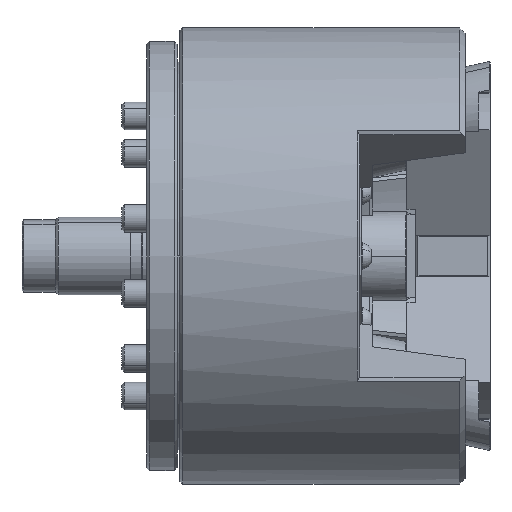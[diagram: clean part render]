
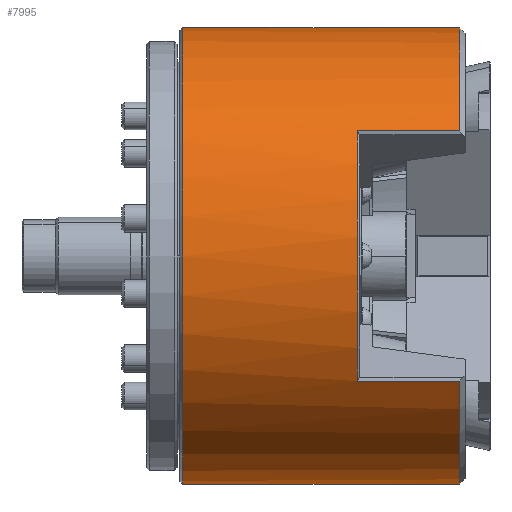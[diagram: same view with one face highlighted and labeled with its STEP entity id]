
A CAD part, front view. The second image highlights one B-rep face of the part: STEP entity #7995.
In plain terms, the highlighted cylindrical face has radius 82.5 mm (diameter 165 mm), a partial arc.
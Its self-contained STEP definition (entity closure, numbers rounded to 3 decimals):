
#733 = VERTEX_POINT ( 'NONE', #26106 ) ;
#983 = EDGE_CURVE ( 'NONE', #24316, #18321, #19117, .T. ) ;
#1066 = EDGE_CURVE ( 'NONE', #26856, #13621, #30392, .T. ) ;
#1553 = VECTOR ( 'NONE', #20618, 1000. ) ;
#2226 = DIRECTION ( 'NONE',  ( 1., 0., 0. ) ) ;
#2400 = LINE ( 'NONE', #15055, #1553 ) ;
#3865 = ORIENTED_EDGE ( 'NONE', *, *, #4741, .F. ) ;
#4342 = ORIENTED_EDGE ( 'NONE', *, *, #15657, .T. ) ;
#4457 = VECTOR ( 'NONE', #10554, 1000. ) ;
#4741 = EDGE_CURVE ( 'NONE', #23458, #35061, #11583, .T. ) ;
#4797 = CARTESIAN_POINT ( 'NONE',  ( -0.482, 0., 82.5 ) ) ;
#5272 = CARTESIAN_POINT ( 'NONE',  ( 36.5, -4.591, -82.372 ) ) ;
#5558 = CARTESIAN_POINT ( 'NONE',  ( 63.843, 0., 82.5 ) ) ;
#6018 = FACE_OUTER_BOUND ( 'NONE', #27907, .T. ) ;
#6233 = EDGE_CURVE ( 'NONE', #27348, #26856, #33891, .T. ) ;
#6796 = EDGE_CURVE ( 'NONE', #18579, #18954, #33046, .T. ) ;
#7161 = EDGE_CURVE ( 'NONE', #8648, #13621, #24920, .T. ) ;
#7324 = VERTEX_POINT ( 'NONE', #27896 ) ;
#7340 = CARTESIAN_POINT ( 'NONE',  ( -0.482, -69.041, -45.162 ) ) ;
#7462 = DIRECTION ( 'NONE',  ( -1., 0., 0. ) ) ;
#7531 = CARTESIAN_POINT ( 'NONE',  ( 63.843, 0., -82.5 ) ) ;
#7995 = ADVANCED_FACE ( 'NONE', ( #6018 ), #33649, .T. ) ;
#8238 = ORIENTED_EDGE ( 'NONE', *, *, #11909, .T. ) ;
#8457 = VECTOR ( 'NONE', #21330, 1000. ) ;
#8629 = ORIENTED_EDGE ( 'NONE', *, *, #6233, .T. ) ;
#8648 = VERTEX_POINT ( 'NONE', #27372 ) ;
#9129 = ORIENTED_EDGE ( 'NONE', *, *, #1066, .T. ) ;
#9827 = CIRCLE ( 'NONE', #25417, 82.5 ) ;
#9963 = ORIENTED_EDGE ( 'NONE', *, *, #7161, .F. ) ;
#10059 = VECTOR ( 'NONE', #22459, 1000. ) ;
#10554 = DIRECTION ( 'NONE',  ( -1., 0., 0. ) ) ;
#11158 = DIRECTION ( 'NONE',  ( -1., 0., 0. ) ) ;
#11231 = ORIENTED_EDGE ( 'NONE', *, *, #34143, .T. ) ;
#11350 = DIRECTION ( 'NONE',  ( -1., 0., 0. ) ) ;
#11583 = LINE ( 'NONE', #5558, #12431 ) ;
#11779 = VECTOR ( 'NONE', #16753, 1000. ) ;
#11909 = EDGE_CURVE ( 'NONE', #733, #27348, #15824, .T. ) ;
#12431 = VECTOR ( 'NONE', #24950, 1000. ) ;
#12479 = DIRECTION ( 'NONE',  ( 1., 0., 0. ) ) ;
#12538 = ORIENTED_EDGE ( 'NONE', *, *, #6796, .T. ) ;
#12610 = ORIENTED_EDGE ( 'NONE', *, *, #18970, .T. ) ;
#12746 = CARTESIAN_POINT ( 'NONE',  ( -63.5, 0., 0. ) ) ;
#13621 = VERTEX_POINT ( 'NONE', #5272 ) ;
#13818 = ORIENTED_EDGE ( 'NONE', *, *, #29838, .F. ) ;
#14258 = ORIENTED_EDGE ( 'NONE', *, *, #983, .T. ) ;
#14942 = CARTESIAN_POINT ( 'NONE',  ( -63.5, 0., 82.5 ) ) ;
#15055 = CARTESIAN_POINT ( 'NONE',  ( 63.843, -69.041, 45.162 ) ) ;
#15194 = ORIENTED_EDGE ( 'NONE', *, *, #34600, .T. ) ;
#15516 = DIRECTION ( 'NONE',  ( 0., 0., -1. ) ) ;
#15657 = EDGE_CURVE ( 'NONE', #23458, #733, #22515, .T. ) ;
#15824 = LINE ( 'NONE', #7531, #8457 ) ;
#16521 = CARTESIAN_POINT ( 'NONE',  ( 63.843, -4.591, 82.372 ) ) ;
#16753 = DIRECTION ( 'NONE',  ( -1., 0., 0. ) ) ;
#18321 = VERTEX_POINT ( 'NONE', #33672 ) ;
#18579 = VERTEX_POINT ( 'NONE', #7340 ) ;
#18776 = CARTESIAN_POINT ( 'NONE',  ( 36.5, 0., 0. ) ) ;
#18954 = VERTEX_POINT ( 'NONE', #31664 ) ;
#18970 = EDGE_CURVE ( 'NONE', #18954, #7324, #2400, .T. ) ;
#19117 = LINE ( 'NONE', #16521, #11779 ) ;
#20016 = AXIS2_PLACEMENT_3D ( 'NONE', #27947, #11350, #30723 ) ;
#20618 = DIRECTION ( 'NONE',  ( 1., 0., 0. ) ) ;
#21330 = DIRECTION ( 'NONE',  ( 1., 0., 0. ) ) ;
#21548 = DIRECTION ( 'NONE',  ( 0., 0., -1. ) ) ;
#22459 = DIRECTION ( 'NONE',  ( 1., 0., 0. ) ) ;
#22515 = CIRCLE ( 'NONE', #30177, 82.5 ) ;
#22586 = CARTESIAN_POINT ( 'NONE',  ( 63.843, -4.591, -82.372 ) ) ;
#23458 = VERTEX_POINT ( 'NONE', #14942 ) ;
#23491 = CIRCLE ( 'NONE', #25249, 82.5 ) ;
#24072 = CARTESIAN_POINT ( 'NONE',  ( -0.482, 0., 0. ) ) ;
#24200 = CARTESIAN_POINT ( 'NONE',  ( -0.482, 0., -82.5 ) ) ;
#24316 = VERTEX_POINT ( 'NONE', #25325 ) ;
#24338 = CARTESIAN_POINT ( 'NONE',  ( 63.843, -69.041, -45.162 ) ) ;
#24914 = AXIS2_PLACEMENT_3D ( 'NONE', #18776, #2226, #21548 ) ;
#24920 = CIRCLE ( 'NONE', #24914, 82.5 ) ;
#24950 = DIRECTION ( 'NONE',  ( 1., 0., 0. ) ) ;
#25249 = AXIS2_PLACEMENT_3D ( 'NONE', #24072, #7462, #26874 ) ;
#25325 = CARTESIAN_POINT ( 'NONE',  ( 36.5, -4.591, 82.372 ) ) ;
#25417 = AXIS2_PLACEMENT_3D ( 'NONE', #29106, #12479, #31855 ) ;
#25704 = LINE ( 'NONE', #24338, #4457 ) ;
#26084 = CARTESIAN_POINT ( 'NONE',  ( -0.482, -4.591, -82.372 ) ) ;
#26106 = CARTESIAN_POINT ( 'NONE',  ( -63.5, 0., -82.5 ) ) ;
#26576 = AXIS2_PLACEMENT_3D ( 'NONE', #28911, #31662, #34292 ) ;
#26856 = VERTEX_POINT ( 'NONE', #26084 ) ;
#26874 = DIRECTION ( 'NONE',  ( 0., 0., -1. ) ) ;
#27348 = VERTEX_POINT ( 'NONE', #24200 ) ;
#27372 = CARTESIAN_POINT ( 'NONE',  ( 36.5, -69.041, -45.162 ) ) ;
#27748 = CARTESIAN_POINT ( 'NONE',  ( -0.482, 0., 0. ) ) ;
#27896 = CARTESIAN_POINT ( 'NONE',  ( 36.5, -69.041, 45.162 ) ) ;
#27907 = EDGE_LOOP ( 'NONE', ( #3865, #4342, #8238, #8629, #9129, #9963, #11231, #12538, #12610, #13818, #14258, #15194 ) ) ;
#27947 = CARTESIAN_POINT ( 'NONE',  ( -0.482, 0., 0. ) ) ;
#28911 = CARTESIAN_POINT ( 'NONE',  ( 63.843, 0., 0. ) ) ;
#29106 = CARTESIAN_POINT ( 'NONE',  ( 36.5, 0., 0. ) ) ;
#29838 = EDGE_CURVE ( 'NONE', #24316, #7324, #9827, .T. ) ;
#30177 = AXIS2_PLACEMENT_3D ( 'NONE', #12746, #32103, #15516 ) ;
#30392 = LINE ( 'NONE', #22586, #10059 ) ;
#30526 = DIRECTION ( 'NONE',  ( 0., 0., -1. ) ) ;
#30723 = DIRECTION ( 'NONE',  ( 0., 0., -1. ) ) ;
#31662 = DIRECTION ( 'NONE',  ( 1., 0., 0. ) ) ;
#31664 = CARTESIAN_POINT ( 'NONE',  ( -0.482, -69.041, 45.162 ) ) ;
#31855 = DIRECTION ( 'NONE',  ( 0., 0., -1. ) ) ;
#32103 = DIRECTION ( 'NONE',  ( 1., 0., 0. ) ) ;
#33046 = CIRCLE ( 'NONE', #20016, 82.5 ) ;
#33649 = CYLINDRICAL_SURFACE ( 'NONE', #26576, 82.5 ) ;
#33672 = CARTESIAN_POINT ( 'NONE',  ( -0.482, -4.591, 82.372 ) ) ;
#33891 = CIRCLE ( 'NONE', #34250, 82.5 ) ;
#34143 = EDGE_CURVE ( 'NONE', #8648, #18579, #25704, .T. ) ;
#34250 = AXIS2_PLACEMENT_3D ( 'NONE', #27748, #11158, #30526 ) ;
#34292 = DIRECTION ( 'NONE',  ( 0., 0., -1. ) ) ;
#34600 = EDGE_CURVE ( 'NONE', #18321, #35061, #23491, .T. ) ;
#35061 = VERTEX_POINT ( 'NONE', #4797 ) ;
